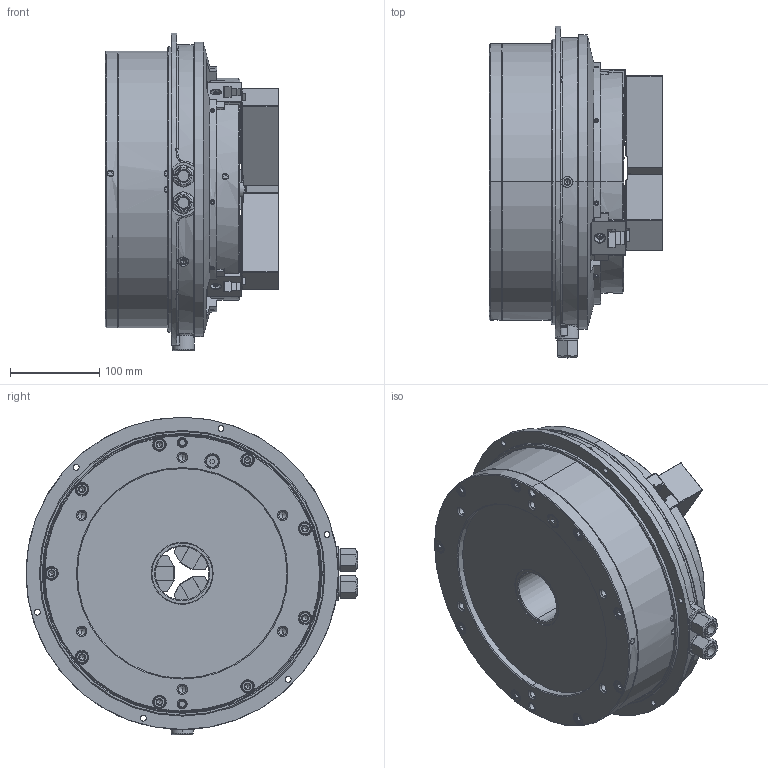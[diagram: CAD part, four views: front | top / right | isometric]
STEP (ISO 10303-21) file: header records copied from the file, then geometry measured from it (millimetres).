
FILE_DESCRIPTION (( 'STEP AP214' ), '1' );
FILE_NAME ('DEV-UVE250K-HUL.STEP', '2024-10-03T00:31:43', ( '' ), ( '' ), 'SwSTEP 2.0', 'SolidWorks 2022', '' );
FILE_SCHEMA (( 'AUTOMOTIVE_DESIGN' ));
Length unit declared in the file: millimetre
Products named in the file (6): Copy of 61P401335^DEV-UVE250K-クミタテ; Copy of 0030112030^DEV-UVE250K-クミタテ; DEV-UVE250K-HUL; Copy of 0693000003^DEV-UVE250K-クミタテ; Part2^DEV-UVE250K-クミタテ; Copy of P31633^DEV-UVE250K-クミタテ
Assembly tree (18 placements, depth 2):
  DEV-UVE250K-HUL
    Copy of P31633^DEV-UVE250K-クミタテ  x3
    Copy of 61P401335^DEV-UVE250K-クミタテ  x6
    Copy of 0030112030^DEV-UVE250K-クミタテ  x6
    Copy of 0693000003^DEV-UVE250K-クミタテ  x2
    Part2^DEV-UVE250K-クミタテ
Bounding box: 194.45 x 372 x 356 mm (x, y, z)
Volume: 10565405.9 mm3; surface area: 604743.4 mm2
Topology: 19 solids, 52 shells, 5457 faces, 15119 edges, 9847 vertices
Faces by surface type: plane 3379, cylinder 1150, cone 597, bspline 241, torus 68, sphere 22
Entity records: 151795 total; most frequent: CARTESIAN_POINT 46001, ORIENTED_EDGE 23900, DIRECTION 19307, EDGE_CURVE 11950, VECTOR 7883, LINE 7883, VERTEX_POINT 7831, AXIS2_PLACEMENT_3D 5712
